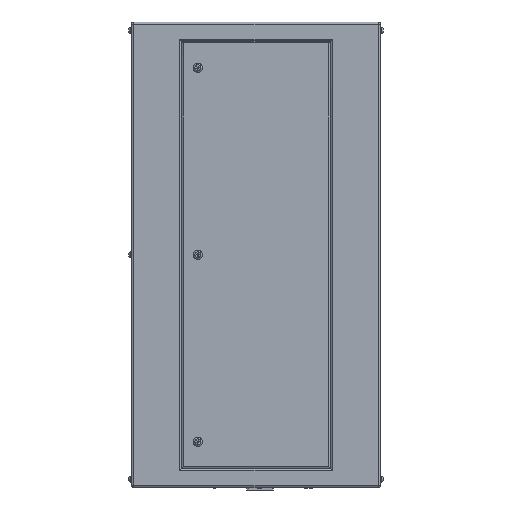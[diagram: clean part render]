
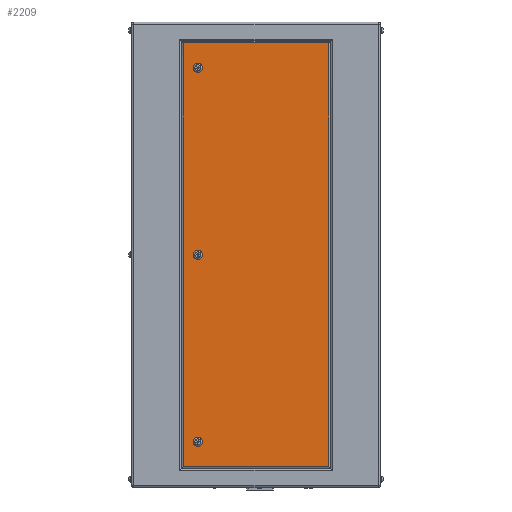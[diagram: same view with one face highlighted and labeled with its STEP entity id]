
A CAD part, left-side view. The second image highlights one B-rep face of the part: STEP entity #2209.
In plain terms, the highlighted planar face has unit normal (-1, 0, 0).
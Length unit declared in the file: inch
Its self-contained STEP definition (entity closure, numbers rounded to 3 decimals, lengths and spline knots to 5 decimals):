
#1062 = FACE_OUTER_BOUND ( 'NONE', #28848, .T. ) ;
#1402 = AXIS2_PLACEMENT_3D ( 'NONE', #19906, #16956, #37241 ) ;
#1453 = DIRECTION ( 'NONE',  ( 1., 0., 0. ) ) ;
#1625 = CARTESIAN_POINT ( 'NONE',  ( -18., -8.74, 25.49 ) ) ;
#1701 = CIRCLE ( 'NONE', #2941, 0.55 ) ;
#1997 = CIRCLE ( 'NONE', #5767, 0.55 ) ;
#2071 = ORIENTED_EDGE ( 'NONE', *, *, #37227, .T. ) ;
#2209 = ADVANCED_FACE ( 'NONE', ( #31037, #4015, #16118, #1062 ), #37169, .F. ) ;
#2822 = VERTEX_POINT ( 'NONE', #29563 ) ;
#2941 = AXIS2_PLACEMENT_3D ( 'NONE', #19019, #7365, #7752 ) ;
#3008 = ORIENTED_EDGE ( 'NONE', *, *, #31389, .T. ) ;
#4015 = FACE_BOUND ( 'NONE', #25848, .T. ) ;
#4209 = DIRECTION ( 'NONE',  ( 0., 0., -1. ) ) ;
#4441 = ORIENTED_EDGE ( 'NONE', *, *, #6373, .T. ) ;
#5163 = DIRECTION ( 'NONE',  ( 0., 1., 0. ) ) ;
#5437 = DIRECTION ( 'NONE',  ( 0., 0., -1. ) ) ;
#5767 = AXIS2_PLACEMENT_3D ( 'NONE', #23362, #17256, #32385 ) ;
#6373 = EDGE_CURVE ( 'NONE', #10985, #30386, #19518, .T. ) ;
#7011 = VERTEX_POINT ( 'NONE', #35002 ) ;
#7365 = DIRECTION ( 'NONE',  ( 1., 0., 0. ) ) ;
#7752 = DIRECTION ( 'NONE',  ( 0., 0., -1. ) ) ;
#8127 = CARTESIAN_POINT ( 'NONE',  ( -18., 7., -21.95 ) ) ;
#9340 = VERTEX_POINT ( 'NONE', #10072 ) ;
#9530 = EDGE_CURVE ( 'NONE', #2822, #19672, #25433, .T. ) ;
#10072 = CARTESIAN_POINT ( 'NONE',  ( -18., 7., 23.05 ) ) ;
#10292 = DIRECTION ( 'NONE',  ( 1., 0., 0. ) ) ;
#10346 = CARTESIAN_POINT ( 'NONE',  ( -18., 7., -22.5 ) ) ;
#10462 = CARTESIAN_POINT ( 'NONE',  ( -18., 8.74, -28. ) ) ;
#10985 = VERTEX_POINT ( 'NONE', #11601 ) ;
#11420 = CARTESIAN_POINT ( 'NONE',  ( -18., 7., 0. ) ) ;
#11601 = CARTESIAN_POINT ( 'NONE',  ( -18., -8.74, -25.49 ) ) ;
#13164 = EDGE_CURVE ( 'NONE', #19672, #10985, #25165, .T. ) ;
#15840 = EDGE_LOOP ( 'NONE', ( #37131, #3008 ) ) ;
#16118 = FACE_BOUND ( 'NONE', #17621, .T. ) ;
#16732 = DIRECTION ( 'NONE',  ( 1., 0., 0. ) ) ;
#16956 = DIRECTION ( 'NONE',  ( 1., 0., 0. ) ) ;
#17238 = CIRCLE ( 'NONE', #23521, 0.55 ) ;
#17256 = DIRECTION ( 'NONE',  ( 1., 0., 0. ) ) ;
#17300 = AXIS2_PLACEMENT_3D ( 'NONE', #11420, #16732, #5437 ) ;
#17552 = DIRECTION ( 'NONE',  ( 0., 0., -1. ) ) ;
#17621 = EDGE_LOOP ( 'NONE', ( #28336, #37604 ) ) ;
#19019 = CARTESIAN_POINT ( 'NONE',  ( -18., 7., 22.5 ) ) ;
#19247 = CARTESIAN_POINT ( 'NONE',  ( -18., 15., -28. ) ) ;
#19518 = LINE ( 'NONE', #28185, #36738 ) ;
#19672 = VERTEX_POINT ( 'NONE', #23736 ) ;
#19750 = DIRECTION ( 'NONE',  ( 0., 0., -1. ) ) ;
#19804 = EDGE_CURVE ( 'NONE', #9340, #7011, #17238, .T. ) ;
#19906 = CARTESIAN_POINT ( 'NONE',  ( -18., 7., 0. ) ) ;
#20206 = LINE ( 'NONE', #29445, #26499 ) ;
#21996 = DIRECTION ( 'NONE',  ( 0., 0., -1. ) ) ;
#22054 = EDGE_CURVE ( 'NONE', #7011, #9340, #1701, .T. ) ;
#23338 = AXIS2_PLACEMENT_3D ( 'NONE', #19247, #1453, #4209 ) ;
#23362 = CARTESIAN_POINT ( 'NONE',  ( -18., 7., -22.5 ) ) ;
#23521 = AXIS2_PLACEMENT_3D ( 'NONE', #28813, #10292, #19750 ) ;
#23736 = CARTESIAN_POINT ( 'NONE',  ( -18., 8.74, -25.49 ) ) ;
#24354 = VECTOR ( 'NONE', #37165, 39.37008 ) ;
#24915 = VERTEX_POINT ( 'NONE', #31645 ) ;
#25165 = LINE ( 'NONE', #34391, #24354 ) ;
#25433 = LINE ( 'NONE', #10462, #38862 ) ;
#25732 = EDGE_CURVE ( 'NONE', #28084, #30792, #34249, .T. ) ;
#25848 = EDGE_LOOP ( 'NONE', ( #2071, #28182 ) ) ;
#25950 = ORIENTED_EDGE ( 'NONE', *, *, #35526, .T. ) ;
#26004 = CIRCLE ( 'NONE', #1402, 0.55 ) ;
#26499 = VECTOR ( 'NONE', #5163, 39.37008 ) ;
#28084 = VERTEX_POINT ( 'NONE', #36543 ) ;
#28182 = ORIENTED_EDGE ( 'NONE', *, *, #25732, .T. ) ;
#28185 = CARTESIAN_POINT ( 'NONE',  ( -18., -8.74, -28. ) ) ;
#28336 = ORIENTED_EDGE ( 'NONE', *, *, #22054, .T. ) ;
#28450 = ORIENTED_EDGE ( 'NONE', *, *, #9530, .T. ) ;
#28813 = CARTESIAN_POINT ( 'NONE',  ( -18., 7., 22.5 ) ) ;
#28848 = EDGE_LOOP ( 'NONE', ( #36261, #4441, #25950, #28450 ) ) ;
#29445 = CARTESIAN_POINT ( 'NONE',  ( -18., 15., 25.49 ) ) ;
#29563 = CARTESIAN_POINT ( 'NONE',  ( -18., 8.74, 25.49 ) ) ;
#29825 = CIRCLE ( 'NONE', #37348, 0.55 ) ;
#30386 = VERTEX_POINT ( 'NONE', #1625 ) ;
#30792 = VERTEX_POINT ( 'NONE', #34852 ) ;
#31037 = FACE_BOUND ( 'NONE', #15840, .T. ) ;
#31389 = EDGE_CURVE ( 'NONE', #36947, #24915, #1997, .T. ) ;
#31645 = CARTESIAN_POINT ( 'NONE',  ( -18., 7., -23.05 ) ) ;
#32385 = DIRECTION ( 'NONE',  ( 0., 0., -1. ) ) ;
#34249 = CIRCLE ( 'NONE', #17300, 0.55 ) ;
#34391 = CARTESIAN_POINT ( 'NONE',  ( -18., 15., -25.49 ) ) ;
#34648 = DIRECTION ( 'NONE',  ( 0., 0., 1. ) ) ;
#34852 = CARTESIAN_POINT ( 'NONE',  ( -18., 7., -0.55 ) ) ;
#35002 = CARTESIAN_POINT ( 'NONE',  ( -18., 7., 21.95 ) ) ;
#35526 = EDGE_CURVE ( 'NONE', #30386, #2822, #20206, .T. ) ;
#36261 = ORIENTED_EDGE ( 'NONE', *, *, #13164, .T. ) ;
#36543 = CARTESIAN_POINT ( 'NONE',  ( -18., 7., 0.55 ) ) ;
#36738 = VECTOR ( 'NONE', #34648, 39.37008 ) ;
#36947 = VERTEX_POINT ( 'NONE', #8127 ) ;
#37131 = ORIENTED_EDGE ( 'NONE', *, *, #37869, .T. ) ;
#37165 = DIRECTION ( 'NONE',  ( 0., -1., 0. ) ) ;
#37169 = PLANE ( 'NONE',  #23338 ) ;
#37227 = EDGE_CURVE ( 'NONE', #30792, #28084, #26004, .T. ) ;
#37241 = DIRECTION ( 'NONE',  ( 0., 0., -1. ) ) ;
#37329 = DIRECTION ( 'NONE',  ( 1., 0., 0. ) ) ;
#37348 = AXIS2_PLACEMENT_3D ( 'NONE', #10346, #37329, #21996 ) ;
#37604 = ORIENTED_EDGE ( 'NONE', *, *, #19804, .T. ) ;
#37869 = EDGE_CURVE ( 'NONE', #24915, #36947, #29825, .T. ) ;
#38862 = VECTOR ( 'NONE', #17552, 39.37008 ) ;
